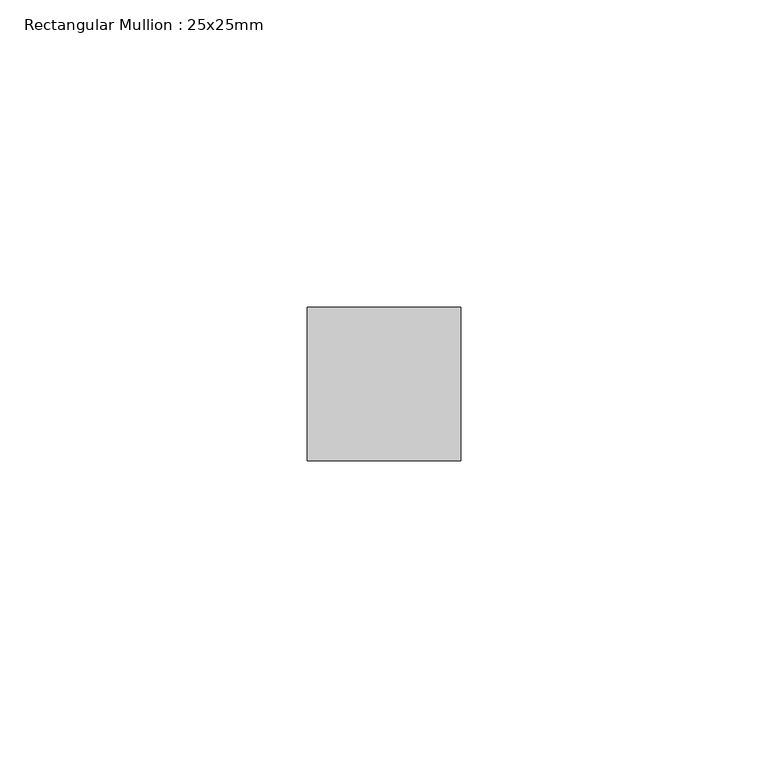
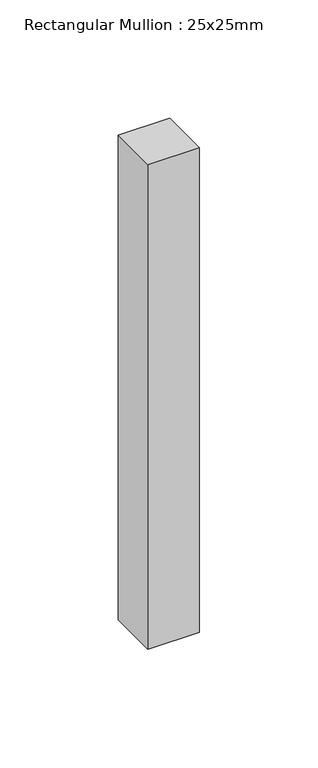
"""IFC4 building model written with IfcOpenShell, lengths in millimetres: member geometry, Rectangular Mullion : 25x25mm."""

from ifc_helpers import new_model, si_unit, frame, origin, place, context, project, spatial, polyline, outline, extrude, source, transform, mapped, element, save


def rectangular_mullion_25x25mm_8fab3f60(model_context):
    return source(origin(), model_context, "Body", "SweptSolid", [
        extrude(outline(polyline([(12.5, 24.5), (12.5, -0.5), (-12.5, -0.5), (-12.5, 24.5), (12.5, 24.5)])), frame((0.0, 0.0, -250.0), z_axis=(0.0, 0.0, 1.0), x_axis=(1.0, 0.0, 0.0)), (0.0, 0.0, 1.0), 250.0),
    ])


if __name__ == "__main__":
    model = new_model("IFC4")
    model_context = context("Model", 3, world=origin())
    ifc_project = project(units=[si_unit("LENGTHUNIT", "METRE", prefix="MILLI")], contexts=[model_context])
    site = spatial("IfcSite", under=ifc_project)
    building = spatial("IfcBuilding", under=site)
    placement = place(None, origin())
    rectangular_mullion_25x25mm_shape = rectangular_mullion_25x25mm_8fab3f60(model_context)
    element("IfcMember", 1, ObjectType="Rectangular Mullion : 25x25mm", at=placement, inside=building, context=model_context, shape_type="MappedRepresentation", body=[
        mapped(rectangular_mullion_25x25mm_shape, transform((0.0, 0.0, 0.0), x_axis=(1.0, 0.0, 0.0), y_axis=(0.0, 1.0, 0.0), z_axis=(0.0, 0.0, 1.0))),
    ])
    save(model, "model.ifc")
